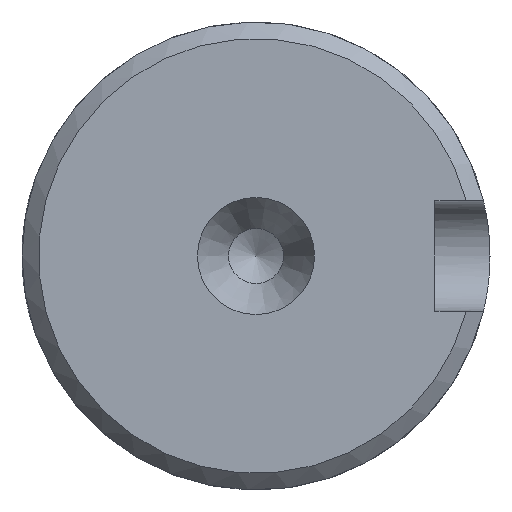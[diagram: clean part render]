
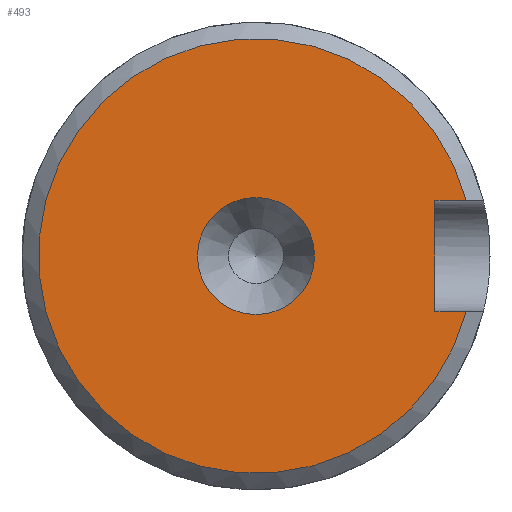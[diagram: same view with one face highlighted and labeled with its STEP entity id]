
A CAD part, left-side view. The second image highlights one B-rep face of the part: STEP entity #493.
In plain terms, the highlighted planar face has unit normal (-1, 0, 0).
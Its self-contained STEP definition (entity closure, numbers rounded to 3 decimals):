
#36=FACE_BOUND('',#155,.T.);
#41=LINE('',#766,#76);
#42=LINE('',#768,#77);
#43=LINE('',#769,#78);
#76=VECTOR('',#611,10.);
#77=VECTOR('',#612,10.);
#78=VECTOR('',#613,10.);
#111=PLANE('',#548);
#124=FACE_OUTER_BOUND('',#154,.T.);
#154=EDGE_LOOP('',(#343,#344,#345,#346));
#155=EDGE_LOOP('',(#347));
#189=CIRCLE('',#547,7.898);
#190=CIRCLE('',#549,2.125);
#216=VERTEX_POINT('',#752);
#219=VERTEX_POINT('',#759);
#220=VERTEX_POINT('',#765);
#221=VERTEX_POINT('',#767);
#222=VERTEX_POINT('',#770);
#269=EDGE_CURVE('',#219,#216,#189,.T.);
#270=EDGE_CURVE('',#219,#220,#41,.T.);
#271=EDGE_CURVE('',#220,#221,#42,.T.);
#272=EDGE_CURVE('',#221,#216,#43,.T.);
#273=EDGE_CURVE('',#222,#222,#190,.T.);
#343=ORIENTED_EDGE('',*,*,#269,.F.);
#344=ORIENTED_EDGE('',*,*,#270,.T.);
#345=ORIENTED_EDGE('',*,*,#271,.T.);
#346=ORIENTED_EDGE('',*,*,#272,.T.);
#347=ORIENTED_EDGE('',*,*,#273,.T.);
#493=ADVANCED_FACE('',(#124,#36),#111,.T.);
#547=AXIS2_PLACEMENT_3D('',#763,#607,#608);
#548=AXIS2_PLACEMENT_3D('',#764,#609,#610);
#549=AXIS2_PLACEMENT_3D('',#771,#614,#615);
#607=DIRECTION('center_axis',(1.,0.,0.));
#608=DIRECTION('ref_axis',(0.,1.,0.));
#609=DIRECTION('center_axis',(-1.,0.,0.));
#610=DIRECTION('ref_axis',(0.,0.,1.));
#611=DIRECTION('',(0.,1.,0.));
#612=DIRECTION('',(0.,0.,1.));
#613=DIRECTION('',(0.,-1.,0.));
#614=DIRECTION('center_axis',(1.,0.,0.));
#615=DIRECTION('ref_axis',(0.,0.,-1.));
#752=CARTESIAN_POINT('',(0.,-7.641,2.));
#759=CARTESIAN_POINT('',(0.,-7.641,-2.));
#763=CARTESIAN_POINT('Origin',(0.,0.,0.));
#764=CARTESIAN_POINT('Origin',(0.,8.5,0.));
#765=CARTESIAN_POINT('',(0.,-6.5,-2.));
#766=CARTESIAN_POINT('',(0.,0.,-2.));
#767=CARTESIAN_POINT('',(0.,-6.5,2.));
#768=CARTESIAN_POINT('',(0.,-6.5,-1.));
#769=CARTESIAN_POINT('',(0.,1.,2.));
#770=CARTESIAN_POINT('',(0.,-2.125,0.));
#771=CARTESIAN_POINT('Origin',(0.,0.,0.));
